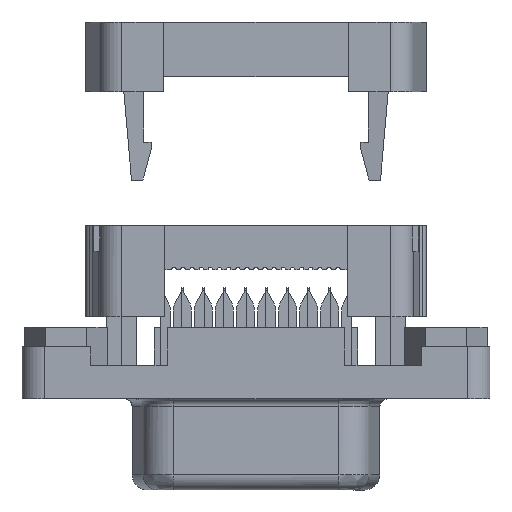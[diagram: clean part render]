
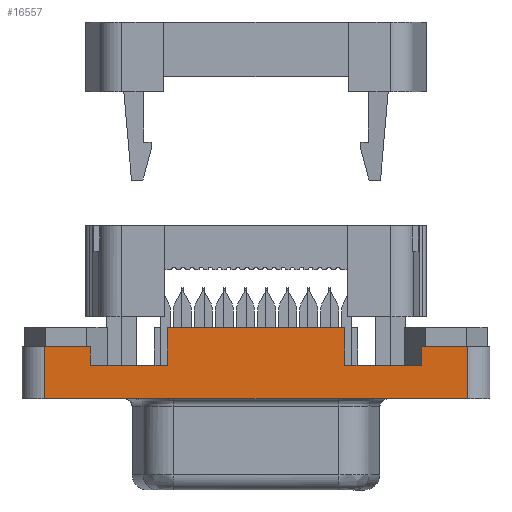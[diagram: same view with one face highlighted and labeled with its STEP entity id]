
A CAD part, front view. The second image highlights one B-rep face of the part: STEP entity #16557.
In plain terms, the highlighted planar face has unit normal (0, -1, 0).
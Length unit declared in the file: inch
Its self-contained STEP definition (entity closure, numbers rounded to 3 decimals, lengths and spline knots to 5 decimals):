
#371 = CARTESIAN_POINT ( 'NONE',  ( -1.39262, -0.16511, 0.61639 ) ) ;
#538 = CARTESIAN_POINT ( 'NONE',  ( -2.17018, -0.16511, 0.43922 ) ) ;
#826 = VECTOR ( 'NONE', #2565, 39.37008 ) ;
#1789 = CARTESIAN_POINT ( 'NONE',  ( -1.1938, -0.16511, 0.53174 ) ) ;
#2565 = DIRECTION ( 'NONE',  ( 1., 0., 0. ) ) ;
#2823 = CARTESIAN_POINT ( 'NONE',  ( -1.07569, -0.16511, 0.43135 ) ) ;
#3082 = DIRECTION ( 'NONE',  ( 0., 0., 1. ) ) ;
#3201 = CARTESIAN_POINT ( 'NONE',  ( -1.1938, -0.16511, 0.51796 ) ) ;
#3328 = EDGE_CURVE ( 'NONE', #28889, #19784, #27557, .T. ) ;
#3439 = EDGE_CURVE ( 'NONE', #24492, #3942, #17678, .T. ) ;
#3608 = CARTESIAN_POINT ( 'NONE',  ( -2.17018, -0.16511, 0.56639 ) ) ;
#3805 = VECTOR ( 'NONE', #18062, 39.37008 ) ;
#3942 = VERTEX_POINT ( 'NONE', #13261 ) ;
#4402 = EDGE_LOOP ( 'NONE', ( #7453, #29087, #19335, #19430, #30374, #28795, #32500, #21963, #10250, #32257, #26976, #10528 ) ) ;
#4736 = VERTEX_POINT ( 'NONE', #21622 ) ;
#4805 = VERTEX_POINT ( 'NONE', #8662 ) ;
#5493 = EDGE_CURVE ( 'NONE', #3942, #28889, #33830, .T. ) ;
#5849 = EDGE_CURVE ( 'NONE', #4805, #7689, #19897, .T. ) ;
#6494 = DIRECTION ( 'NONE',  ( 1., 0., 0. ) ) ;
#6797 = DIRECTION ( 'NONE',  ( 1., 0., 0. ) ) ;
#7002 = CARTESIAN_POINT ( 'NONE',  ( -1.39262, -0.16511, 0.61639 ) ) ;
#7315 = VECTOR ( 'NONE', #3082, 39.37008 ) ;
#7453 = ORIENTED_EDGE ( 'NONE', *, *, #13339, .F. ) ;
#7670 = CARTESIAN_POINT ( 'NONE',  ( -1.07569, -0.16511, 0.43922 ) ) ;
#7689 = VERTEX_POINT ( 'NONE', #19831 ) ;
#7846 = LINE ( 'NONE', #33718, #826 ) ;
#8004 = CARTESIAN_POINT ( 'NONE',  ( -1.39262, -0.16511, 0.61639 ) ) ;
#8082 = EDGE_CURVE ( 'NONE', #21855, #10637, #17535, .T. ) ;
#8662 = CARTESIAN_POINT ( 'NONE',  ( -2.17018, -0.16511, 0.56639 ) ) ;
#8951 = VERTEX_POINT ( 'NONE', #24385 ) ;
#9133 = DIRECTION ( 'NONE',  ( 0., 0., 1. ) ) ;
#9622 = EDGE_CURVE ( 'NONE', #19740, #4736, #22290, .T. ) ;
#10001 = VECTOR ( 'NONE', #14126, 39.37008 ) ;
#10059 = LINE ( 'NONE', #25402, #25654 ) ;
#10250 = ORIENTED_EDGE ( 'NONE', *, *, #27486, .F. ) ;
#10528 = ORIENTED_EDGE ( 'NONE', *, *, #9622, .F. ) ;
#10637 = VERTEX_POINT ( 'NONE', #25604 ) ;
#11572 = CARTESIAN_POINT ( 'NONE',  ( -1.85325, -0.16511, 0.61639 ) ) ;
#11898 = DIRECTION ( 'NONE',  ( 0., 1., 0. ) ) ;
#12188 = DIRECTION ( 'NONE',  ( 0., 0., -1. ) ) ;
#13261 = CARTESIAN_POINT ( 'NONE',  ( -1.39262, -0.16511, 0.51796 ) ) ;
#13339 = EDGE_CURVE ( 'NONE', #8951, #19740, #23377, .T. ) ;
#14126 = DIRECTION ( 'NONE',  ( -1., 0., 0. ) ) ;
#14747 = VECTOR ( 'NONE', #33857, 39.37008 ) ;
#15581 = CARTESIAN_POINT ( 'NONE',  ( -2.05207, -0.16511, 0.51796 ) ) ;
#16557 = ADVANCED_FACE ( 'NONE', ( #29031 ), #17156, .F. ) ;
#16963 = CARTESIAN_POINT ( 'NONE',  ( -2.05207, -0.16511, 0.53174 ) ) ;
#17055 = LINE ( 'NONE', #7002, #20320 ) ;
#17156 = PLANE ( 'NONE',  #22987 ) ;
#17535 = LINE ( 'NONE', #17740, #23264 ) ;
#17678 = LINE ( 'NONE', #371, #23433 ) ;
#17740 = CARTESIAN_POINT ( 'NONE',  ( -1.62294, -0.16511, 0.51796 ) ) ;
#18062 = DIRECTION ( 'NONE',  ( 1., 0., 0. ) ) ;
#18761 = DIRECTION ( 'NONE',  ( 0., 0., -1. ) ) ;
#19095 = EDGE_CURVE ( 'NONE', #4736, #4805, #21289, .T. ) ;
#19335 = ORIENTED_EDGE ( 'NONE', *, *, #3328, .F. ) ;
#19430 = ORIENTED_EDGE ( 'NONE', *, *, #5493, .F. ) ;
#19740 = VERTEX_POINT ( 'NONE', #2823 ) ;
#19784 = VERTEX_POINT ( 'NONE', #32475 ) ;
#19831 = CARTESIAN_POINT ( 'NONE',  ( -2.05207, -0.16511, 0.56639 ) ) ;
#19897 = LINE ( 'NONE', #3608, #21573 ) ;
#20320 = VECTOR ( 'NONE', #6797, 39.37008 ) ;
#21289 = LINE ( 'NONE', #538, #7315 ) ;
#21573 = VECTOR ( 'NONE', #6494, 39.37008 ) ;
#21622 = CARTESIAN_POINT ( 'NONE',  ( -2.17018, -0.16511, 0.43135 ) ) ;
#21654 = LINE ( 'NONE', #16963, #26147 ) ;
#21664 = EDGE_CURVE ( 'NONE', #31845, #24492, #17055, .T. ) ;
#21696 = EDGE_CURVE ( 'NONE', #31845, #10637, #10059, .T. ) ;
#21855 = VERTEX_POINT ( 'NONE', #15581 ) ;
#21963 = ORIENTED_EDGE ( 'NONE', *, *, #8082, .F. ) ;
#22290 = LINE ( 'NONE', #29898, #10001 ) ;
#22987 = AXIS2_PLACEMENT_3D ( 'NONE', #25087, #11898, #9133 ) ;
#23264 = VECTOR ( 'NONE', #31096, 39.37008 ) ;
#23377 = LINE ( 'NONE', #7670, #14747 ) ;
#23433 = VECTOR ( 'NONE', #18761, 39.37008 ) ;
#24385 = CARTESIAN_POINT ( 'NONE',  ( -1.07569, -0.16511, 0.56639 ) ) ;
#24492 = VERTEX_POINT ( 'NONE', #8004 ) ;
#24788 = DIRECTION ( 'NONE',  ( 0., 0., -1. ) ) ;
#25087 = CARTESIAN_POINT ( 'NONE',  ( -2.17018, -0.16511, 0.43135 ) ) ;
#25402 = CARTESIAN_POINT ( 'NONE',  ( -1.85325, -0.16511, 0.61639 ) ) ;
#25604 = CARTESIAN_POINT ( 'NONE',  ( -1.85325, -0.16511, 0.51796 ) ) ;
#25654 = VECTOR ( 'NONE', #12188, 39.37008 ) ;
#25906 = EDGE_CURVE ( 'NONE', #19784, #8951, #7846, .T. ) ;
#26147 = VECTOR ( 'NONE', #24788, 39.37008 ) ;
#26976 = ORIENTED_EDGE ( 'NONE', *, *, #19095, .F. ) ;
#27486 = EDGE_CURVE ( 'NONE', #7689, #21855, #21654, .T. ) ;
#27557 = LINE ( 'NONE', #1789, #32522 ) ;
#28795 = ORIENTED_EDGE ( 'NONE', *, *, #21664, .F. ) ;
#28889 = VERTEX_POINT ( 'NONE', #3201 ) ;
#29031 = FACE_OUTER_BOUND ( 'NONE', #4402, .T. ) ;
#29087 = ORIENTED_EDGE ( 'NONE', *, *, #25906, .F. ) ;
#29898 = CARTESIAN_POINT ( 'NONE',  ( -1.62294, -0.16511, 0.43135 ) ) ;
#30374 = ORIENTED_EDGE ( 'NONE', *, *, #3439, .F. ) ;
#30972 = CARTESIAN_POINT ( 'NONE',  ( -1.62294, -0.16511, 0.51796 ) ) ;
#31096 = DIRECTION ( 'NONE',  ( 1., 0., 0. ) ) ;
#31845 = VERTEX_POINT ( 'NONE', #11572 ) ;
#32257 = ORIENTED_EDGE ( 'NONE', *, *, #5849, .F. ) ;
#32475 = CARTESIAN_POINT ( 'NONE',  ( -1.1938, -0.16511, 0.56639 ) ) ;
#32500 = ORIENTED_EDGE ( 'NONE', *, *, #21696, .T. ) ;
#32522 = VECTOR ( 'NONE', #32915, 39.37008 ) ;
#32915 = DIRECTION ( 'NONE',  ( 0., 0., 1. ) ) ;
#33718 = CARTESIAN_POINT ( 'NONE',  ( -1.1938, -0.16511, 0.56639 ) ) ;
#33830 = LINE ( 'NONE', #30972, #3805 ) ;
#33857 = DIRECTION ( 'NONE',  ( 0., 0., -1. ) ) ;
